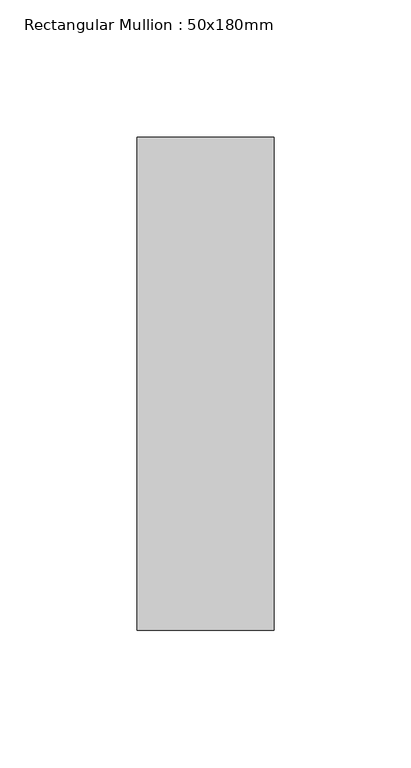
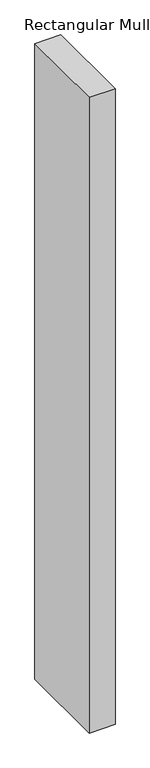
"""IFC4 building model written with IfcOpenShell, lengths in millimetres: member geometry, Rectangular Mullion : 50x180mm."""

from ifc_helpers import new_model, si_unit, frame, origin, place, context, project, spatial, polyline, outline, extrude, source, transform, mapped, element, save


def rectangular_mullion_50x180mm_f827d780(model_context):
    return source(origin(), model_context, "Body", "SweptSolid", [
        extrude(outline(polyline([(25.0, 90.0), (25.0, -90.0), (-25.0, -90.0), (-25.0, 90.0), (25.0, 90.0)])), frame((0.0, 0.0, -1290.8333336), z_axis=(0.0, 0.0, 1.0), x_axis=(1.0, 0.0, 0.0)), (0.0, 0.0, 1.0), 1290.8333336),
    ])


if __name__ == "__main__":
    model = new_model("IFC4")
    model_context = context("Model", 3, world=origin())
    ifc_project = project(units=[si_unit("LENGTHUNIT", "METRE", prefix="MILLI")], contexts=[model_context])
    site = spatial("IfcSite", under=ifc_project)
    building = spatial("IfcBuilding", under=site)
    placement = place(None, origin())
    rectangular_mullion_50x180mm_shape = rectangular_mullion_50x180mm_f827d780(model_context)
    element("IfcMember", 1, ObjectType="Rectangular Mullion : 50x180mm", at=placement, inside=building, context=model_context, shape_type="MappedRepresentation", body=[
        mapped(rectangular_mullion_50x180mm_shape, transform((0.0, 0.0, 0.0), x_axis=(1.0, 0.0, 0.0), y_axis=(0.0, 1.0, 0.0), z_axis=(0.0, 0.0, 1.0))),
    ])
    save(model, "model.ifc")
